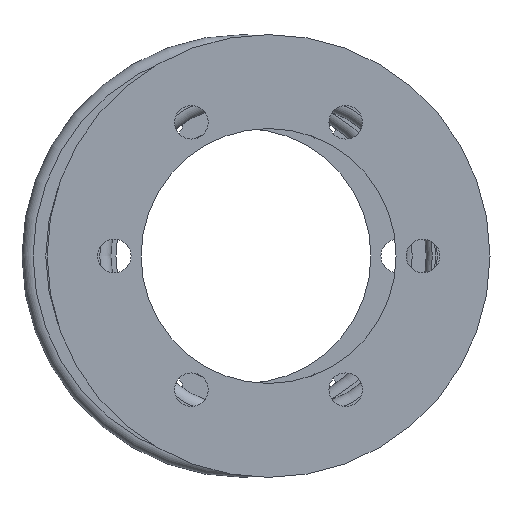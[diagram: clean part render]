
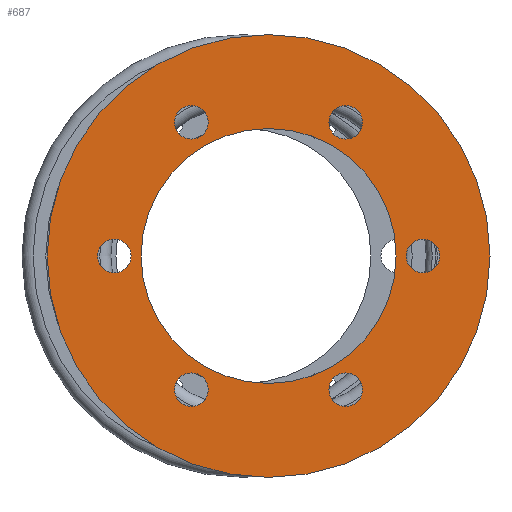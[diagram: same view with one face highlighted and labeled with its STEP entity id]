
A CAD part, left-side view. The second image highlights one B-rep face of the part: STEP entity #687.
In plain terms, the highlighted planar face has unit normal (-1, 0, 0).
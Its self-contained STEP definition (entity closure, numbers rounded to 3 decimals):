
#687 = ADVANCED_FACE( 'NONE', ( #1022, #1023, #1024, #1025, #1026, #1027, #1028, #1029 ), #1030, .F. );
#1022 = FACE_OUTER_BOUND( '', #1172, .T. );
#1023 = FACE_BOUND( '', #1173, .T. );
#1024 = FACE_BOUND( '', #1174, .T. );
#1025 = FACE_BOUND( '', #1175, .T. );
#1026 = FACE_BOUND( '', #1176, .T. );
#1027 = FACE_BOUND( '', #1177, .T. );
#1028 = FACE_BOUND( '', #1178, .T. );
#1029 = FACE_BOUND( '', #1179, .T. );
#1030 = PLANE( '', #1180 );
#1172 = EDGE_LOOP( '', ( #1376 ) );
#1173 = EDGE_LOOP( '', ( #1377 ) );
#1174 = EDGE_LOOP( '', ( #1378 ) );
#1175 = EDGE_LOOP( '', ( #1379 ) );
#1176 = EDGE_LOOP( '', ( #1380 ) );
#1177 = EDGE_LOOP( '', ( #1381 ) );
#1178 = EDGE_LOOP( '', ( #1382 ) );
#1179 = EDGE_LOOP( '', ( #1383 ) );
#1180 = AXIS2_PLACEMENT_3D( '', #1384, #1385, #1386 );
#1376 = ORIENTED_EDGE( '', *, *, #1600, .T. );
#1377 = ORIENTED_EDGE( '', *, *, #1601, .F. );
#1378 = ORIENTED_EDGE( '', *, *, #1602, .F. );
#1379 = ORIENTED_EDGE( '', *, *, #1603, .F. );
#1380 = ORIENTED_EDGE( '', *, *, #1604, .F. );
#1381 = ORIENTED_EDGE( '', *, *, #1605, .F. );
#1382 = ORIENTED_EDGE( '', *, *, #1606, .F. );
#1383 = ORIENTED_EDGE( '', *, *, #1607, .F. );
#1384 = CARTESIAN_POINT( '', ( 0., 19., 0. ) );
#1385 = DIRECTION( '', ( 1., 0., 0. ) );
#1386 = DIRECTION( '', ( 0., 1., 0. ) );
#1600 = EDGE_CURVE( 'NONE', #1778, #1778, #1779, .T. );
#1601 = EDGE_CURVE( 'NONE', #1780, #1780, #1781, .T. );
#1602 = EDGE_CURVE( 'NONE', #1782, #1782, #1783, .T. );
#1603 = EDGE_CURVE( 'NONE', #1784, #1784, #1785, .T. );
#1604 = EDGE_CURVE( 'NONE', #1786, #1786, #1787, .T. );
#1605 = EDGE_CURVE( 'NONE', #1788, #1788, #1789, .T. );
#1606 = EDGE_CURVE( 'NONE', #1790, #1790, #1791, .T. );
#1607 = EDGE_CURVE( 'NONE', #1792, #1792, #1793, .T. );
#1778 = VERTEX_POINT( '', #1810 );
#1779 = CIRCLE( '', #1811, 33. );
#1780 = VERTEX_POINT( '', #1812 );
#1781 = CIRCLE( '', #1813, 2.5 );
#1782 = VERTEX_POINT( '', #1814 );
#1783 = CIRCLE( '', #1815, 2.5 );
#1784 = VERTEX_POINT( '', #1816 );
#1785 = CIRCLE( '', #1817, 2.5 );
#1786 = VERTEX_POINT( '', #1818 );
#1787 = CIRCLE( '', #1819, 2.5 );
#1788 = VERTEX_POINT( '', #1820 );
#1789 = CIRCLE( '', #1821, 19. );
#1790 = VERTEX_POINT( '', #1822 );
#1791 = CIRCLE( '', #1823, 2.5 );
#1792 = VERTEX_POINT( '', #1824 );
#1793 = CIRCLE( '', #1825, 2.5 );
#1810 = CARTESIAN_POINT( '', ( 0., 0., 33. ) );
#1811 = AXIS2_PLACEMENT_3D( '', #1842, #1843, #1844 );
#1812 = CARTESIAN_POINT( '', ( 0., -11.5, 22.419 ) );
#1813 = AXIS2_PLACEMENT_3D( '', #1845, #1846, #1847 );
#1814 = CARTESIAN_POINT( '', ( 0., -11.5, -17.419 ) );
#1815 = AXIS2_PLACEMENT_3D( '', #1848, #1849, #1850 );
#1816 = CARTESIAN_POINT( '', ( 0., 11.5, -17.419 ) );
#1817 = AXIS2_PLACEMENT_3D( '', #1851, #1852, #1853 );
#1818 = CARTESIAN_POINT( '', ( 0., 23., 2.5 ) );
#1819 = AXIS2_PLACEMENT_3D( '', #1854, #1855, #1856 );
#1820 = CARTESIAN_POINT( '', ( 0., 0., 19. ) );
#1821 = AXIS2_PLACEMENT_3D( '', #1857, #1858, #1859 );
#1822 = CARTESIAN_POINT( '', ( 0., -23., 2.5 ) );
#1823 = AXIS2_PLACEMENT_3D( '', #1860, #1861, #1862 );
#1824 = CARTESIAN_POINT( '', ( 0., 11.5, 22.419 ) );
#1825 = AXIS2_PLACEMENT_3D( '', #1863, #1864, #1865 );
#1842 = CARTESIAN_POINT( '', ( 0., 0., 0. ) );
#1843 = DIRECTION( '', ( -1., 0., 0. ) );
#1844 = DIRECTION( '', ( 0., 0., 1. ) );
#1845 = CARTESIAN_POINT( '', ( 0., -11.5, 19.919 ) );
#1846 = DIRECTION( '', ( -1., 0., 0. ) );
#1847 = DIRECTION( '', ( 0., 0., 1. ) );
#1848 = CARTESIAN_POINT( '', ( 0., -11.5, -19.919 ) );
#1849 = DIRECTION( '', ( -1., 0., 0. ) );
#1850 = DIRECTION( '', ( 0., 0., 1. ) );
#1851 = CARTESIAN_POINT( '', ( 0., 11.5, -19.919 ) );
#1852 = DIRECTION( '', ( -1., 0., 0. ) );
#1853 = DIRECTION( '', ( 0., 0., 1. ) );
#1854 = CARTESIAN_POINT( '', ( 0., 23., 0. ) );
#1855 = DIRECTION( '', ( -1., 0., 0. ) );
#1856 = DIRECTION( '', ( 0., 0., 1. ) );
#1857 = CARTESIAN_POINT( '', ( 0., 0., 0. ) );
#1858 = DIRECTION( '', ( -1., 0., 0. ) );
#1859 = DIRECTION( '', ( 0., 0., 1. ) );
#1860 = CARTESIAN_POINT( '', ( 0., -23., 0. ) );
#1861 = DIRECTION( '', ( -1., 0., 0. ) );
#1862 = DIRECTION( '', ( 0., 0., 1. ) );
#1863 = CARTESIAN_POINT( '', ( 0., 11.5, 19.919 ) );
#1864 = DIRECTION( '', ( -1., 0., 0. ) );
#1865 = DIRECTION( '', ( 0., 0., 1. ) );
